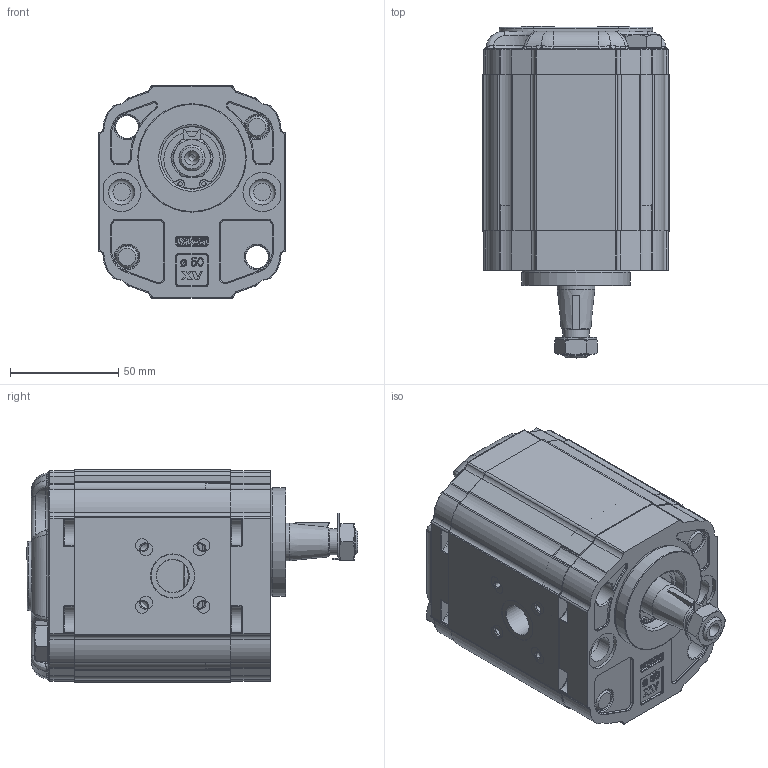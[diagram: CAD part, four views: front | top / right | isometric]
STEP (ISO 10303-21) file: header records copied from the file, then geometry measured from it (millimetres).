
FILE_DESCRIPTION( ( 'Unknown' ), '1' );
FILE_NAME( 'P:/montaggio_easy/output/STP/X2U5322FSRA.stp', 'Unknown', ( 'Unknown' ), ( 'Unknown' ), 'PSStep 14.0', 'Unknown', ' ' );
FILE_SCHEMA( ( 'AUTOMOTIVE_DESIGN { 1 0 10303 214 1 1 1 1 }' ) );
Length unit declared in the file: millimetre
Products named in the file (5): Assem1; X2U22; 2F; X2SRH72; XU213-A
Bounding box: 86 x 153.15 x 98 mm (x, y, z)
Surface area: 217842.1 mm2
Topology: 8 solids, 14 shells, 3558 faces, 9238 edges, 5968 vertices
Faces by surface type: plane 1780, cylinder 896, extrusion 388, torus 250, bspline 126, cone 118
Full cylindrical faces by diameter (mm): 2 x4, 5 x16, 8.5 x4, 10.5 x12, 11 x8, 12 x8, 12.5 x2, 15 x2, 16 x4, 17.42 x2, 18 x2, 20 x2, 20.595 x2, 23.332 x2, 25.834 x2, 28.5 x2, 28.56 x2, 28.57 x2, 28.8 x2, 30.5 x2, 50 x2
Entity records: 74617 total; most frequent: CARTESIAN_POINT 17462, ORIENTED_EDGE 8946, DIRECTION 8524, EDGE_CURVE 4473, VERTEX_POINT 2942, VECTOR 2920, AXIS2_PLACEMENT_3D 2802, LINE 2726
